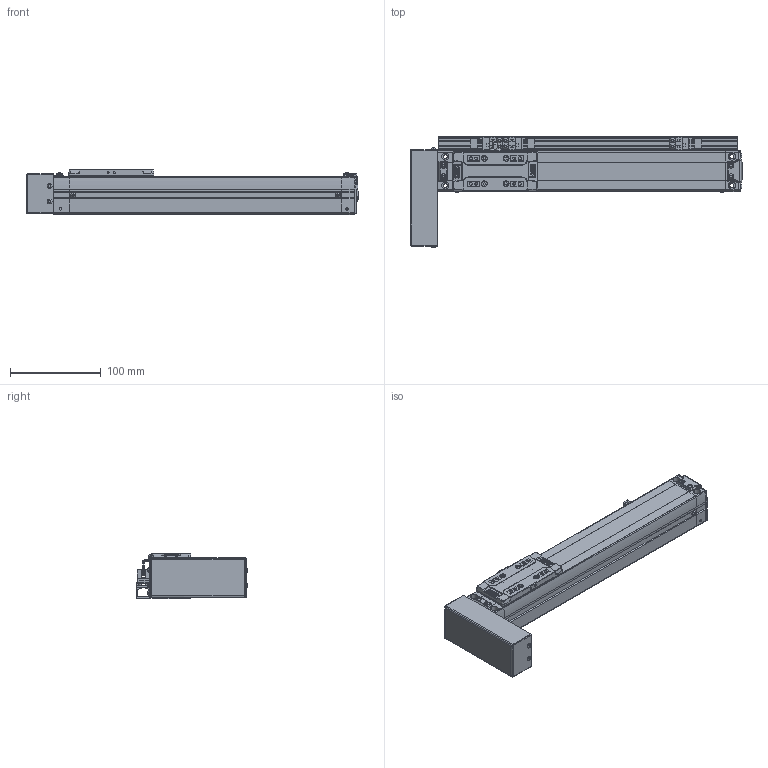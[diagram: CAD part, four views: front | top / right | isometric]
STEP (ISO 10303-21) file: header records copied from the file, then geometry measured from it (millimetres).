
FILE_DESCRIPTION(('STEP AP214'),'1');
FILE_NAME('Z:/Web/3D/SAN45/2013.ver/STP/SAN45-200PR+3SL.stp','2013-05-15T00:31:24',(' '),(' '),'Spatial InterOp 3D',' ',' ');
FILE_SCHEMA(('automotive_design'));
Length unit declared in the file: millimetre
Products named in the file (46): BODY-SAN45; REAR-SAN45; RRCV-SAN45; BHCS M3 x 6L; BHCS M3 X 6L; FRONT-SAN45; SHAFT; RN8 x 0.75; SSFX-SAN45; SLIDE-SAN45; SLCV-IM45; FHCS M3 x 6L; BTCV-SAN45; SRL-16x17-380L; EE-SX674; SBK-SX674-352; SDG-SA45; SCREW M3 x 5L
Bounding box: 366.15 x 123.06 x 50 mm (x, y, z)
Volume: 785993.6 mm3; surface area: 175365.6 mm2
Topology: 46 solids, 46 shells, 2323 faces, 5999 edges, 3854 vertices
Faces by surface type: plane 1288, cylinder 725, cone 144, sphere 84, bspline 44, torus 32, extrusion 6
Entity records: 94115 total; most frequent: CARTESIAN_POINT 16796, DIRECTION 12488, ORIENTED_EDGE 11862, EDGE_CURVE 5931, AXIS2_PLACEMENT_3D 4359, VERTEX_POINT 3854, VECTOR 3770, LINE 3764
